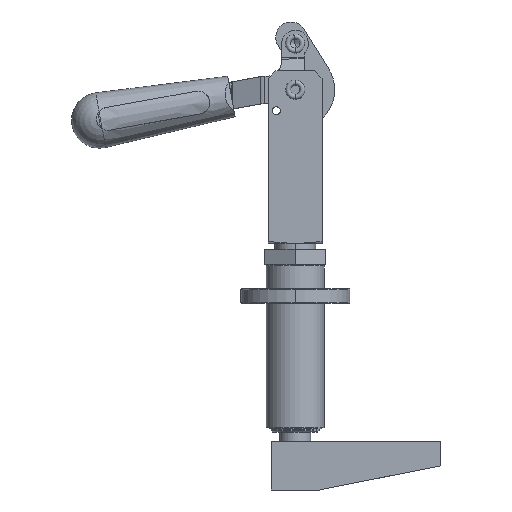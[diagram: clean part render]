
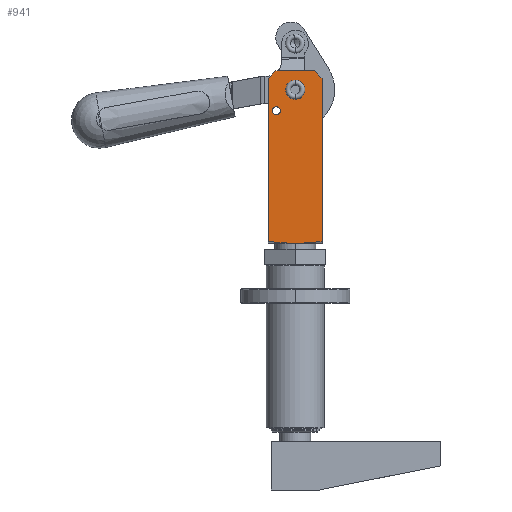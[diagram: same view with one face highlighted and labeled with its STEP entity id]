
A CAD part, left-side view. The second image highlights one B-rep face of the part: STEP entity #941.
In plain terms, the highlighted planar face has unit normal (-1, 0, 0).
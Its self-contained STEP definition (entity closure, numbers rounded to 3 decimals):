
#123=DIRECTION('',(0.,0.,-1.));
#124=VECTOR('',#123,67.385);
#125=CARTESIAN_POINT('',(-11.113,-11.113,70.699));
#126=LINE('',#125,#124);
#127=DIRECTION('',(0.,-0.707,0.707));
#128=VECTOR('',#127,4.49);
#129=CARTESIAN_POINT('',(-11.113,11.113,70.699));
#130=LINE('',#129,#128);
#131=DIRECTION('',(0.,-0.707,-0.707));
#132=VECTOR('',#131,4.49);
#133=CARTESIAN_POINT('',(-11.113,-7.938,73.874));
#134=LINE('',#133,#132);
#135=CARTESIAN_POINT('',(-11.113,0.,66.));
#136=DIRECTION('',(-1.,0.,0.));
#137=DIRECTION('',(0.,0.,1.));
#138=AXIS2_PLACEMENT_3D('',#135,#136,#137);
#140=CARTESIAN_POINT('',(-11.113,0.,66.));
#141=DIRECTION('',(-1.,0.,0.));
#142=DIRECTION('',(0.,0.,-1.));
#143=AXIS2_PLACEMENT_3D('',#140,#141,#142);
#145=CARTESIAN_POINT('',(-11.113,7.798,57.262));
#146=DIRECTION('',(-1.,0.,0.));
#147=DIRECTION('',(0.,-1.,0.));
#148=AXIS2_PLACEMENT_3D('',#145,#146,#147);
#150=CARTESIAN_POINT('',(-11.113,7.798,57.262));
#151=DIRECTION('',(-1.,0.,0.));
#152=DIRECTION('',(0.,1.,0.));
#153=AXIS2_PLACEMENT_3D('',#150,#151,#152);
#212=DIRECTION('',(0.,1.,0.));
#213=VECTOR('',#212,15.875);
#214=CARTESIAN_POINT('',(-11.113,-7.938,73.874));
#215=LINE('',#214,#213);
#236=DIRECTION('',(0.,0.,-1.));
#237=VECTOR('',#236,67.385);
#238=CARTESIAN_POINT('',(-11.113,11.113,70.699));
#239=LINE('',#238,#237);
#269=CARTESIAN_POINT('',(-11.113,11.113,3.314));
#270=CARTESIAN_POINT('',(-11.113,10.429,3.229));
#271=CARTESIAN_POINT('',(-11.113,9.098,3.07));
#272=CARTESIAN_POINT('',(-11.113,7.182,2.871));
#273=CARTESIAN_POINT('',(-11.113,5.444,2.718));
#274=CARTESIAN_POINT('',(-11.113,3.469,2.587));
#275=CARTESIAN_POINT('',(-11.113,1.687,2.517));
#276=CARTESIAN_POINT('',(-11.113,0.549,2.502));
#277=CARTESIAN_POINT('',(-11.113,0.,2.502));
#303=CARTESIAN_POINT('',(-11.113,0.,2.502));
#304=CARTESIAN_POINT('',(-11.113,-0.552,2.502));
#305=CARTESIAN_POINT('',(-11.113,-1.693,2.517));
#306=CARTESIAN_POINT('',(-11.113,-3.476,2.587));
#307=CARTESIAN_POINT('',(-11.113,-5.449,2.718));
#308=CARTESIAN_POINT('',(-11.113,-7.187,2.871));
#309=CARTESIAN_POINT('',(-11.113,-9.101,3.071));
#310=CARTESIAN_POINT('',(-11.113,-10.43,3.229));
#311=CARTESIAN_POINT('',(-11.113,-11.113,3.314));
#735=CARTESIAN_POINT('',(-11.113,6.166,57.262));
#737=VERTEX_POINT('',#735);
#740=CARTESIAN_POINT('',(-11.113,9.43,57.262));
#741=VERTEX_POINT('',#740);
#746=CARTESIAN_POINT('',(-11.113,-11.113,70.699));
#747=CARTESIAN_POINT('',(-11.113,-11.113,3.314));
#748=VERTEX_POINT('',#746);
#749=VERTEX_POINT('',#747);
#750=VERTEX_POINT('',#303);
#751=VERTEX_POINT('',#269);
#752=CARTESIAN_POINT('',(-11.113,11.113,70.699));
#753=VERTEX_POINT('',#752);
#754=CARTESIAN_POINT('',(-11.113,7.938,73.874));
#755=VERTEX_POINT('',#754);
#756=CARTESIAN_POINT('',(-11.113,-7.938,73.874));
#757=VERTEX_POINT('',#756);
#758=CARTESIAN_POINT('',(-11.113,0.,69.967));
#759=CARTESIAN_POINT('',(-11.113,0.,62.033));
#760=VERTEX_POINT('',#758);
#761=VERTEX_POINT('',#759);
#910=CARTESIAN_POINT('',(-11.113,11.113,-16.55));
#911=DIRECTION('',(-1.,0.,0.));
#912=DIRECTION('',(0.,-1.,0.));
#913=AXIS2_PLACEMENT_3D('',#910,#911,#912);
#914=PLANE('',#913);
#916=ORIENTED_EDGE('',*,*,#915,.T.);
#918=ORIENTED_EDGE('',*,*,#917,.F.);
#920=ORIENTED_EDGE('',*,*,#919,.F.);
#922=ORIENTED_EDGE('',*,*,#921,.F.);
#924=ORIENTED_EDGE('',*,*,#923,.T.);
#926=ORIENTED_EDGE('',*,*,#925,.F.);
#928=ORIENTED_EDGE('',*,*,#927,.T.);
#929=EDGE_LOOP('',(#916,#918,#920,#922,#924,#926,#928));
#930=FACE_OUTER_BOUND('',#929,.F.);
#932=ORIENTED_EDGE('',*,*,#931,.T.);
#934=ORIENTED_EDGE('',*,*,#933,.T.);
#935=EDGE_LOOP('',(#932,#934));
#936=FACE_BOUND('',#935,.F.);
#937=ORIENTED_EDGE('',*,*,#891,.T.);
#938=ORIENTED_EDGE('',*,*,#901,.T.);
#939=EDGE_LOOP('',(#937,#938));
#940=FACE_BOUND('',#939,.F.);
#139=CIRCLE('',#138,3.967);
#144=CIRCLE('',#143,3.967);
#149=CIRCLE('',#148,1.632);
#154=CIRCLE('',#153,1.632);
#278=B_SPLINE_CURVE_WITH_KNOTS('',3,(#269,#270,#271,#272,#273,#274,#275,#276,
#277),.UNSPECIFIED.,.F.,.F.,(4,1,1,1,1,1,4),(0.,0.167,
0.333,0.5,0.667,0.833,1.),
.UNSPECIFIED.);
#312=B_SPLINE_CURVE_WITH_KNOTS('',3,(#303,#304,#305,#306,#307,#308,#309,#310,
#311),.UNSPECIFIED.,.F.,.F.,(4,1,1,1,1,1,4),(0.,0.167,
0.333,0.5,0.667,0.833,1.),
.UNSPECIFIED.);
#891=EDGE_CURVE('',#737,#741,#149,.T.);
#901=EDGE_CURVE('',#741,#737,#154,.T.);
#915=EDGE_CURVE('',#748,#749,#126,.T.);
#917=EDGE_CURVE('',#750,#749,#312,.T.);
#919=EDGE_CURVE('',#751,#750,#278,.T.);
#921=EDGE_CURVE('',#753,#751,#239,.T.);
#923=EDGE_CURVE('',#753,#755,#130,.T.);
#925=EDGE_CURVE('',#757,#755,#215,.T.);
#927=EDGE_CURVE('',#757,#748,#134,.T.);
#931=EDGE_CURVE('',#760,#761,#139,.T.);
#933=EDGE_CURVE('',#761,#760,#144,.T.);
#941=ADVANCED_FACE('',(#930,#936,#940),#914,.T.);
